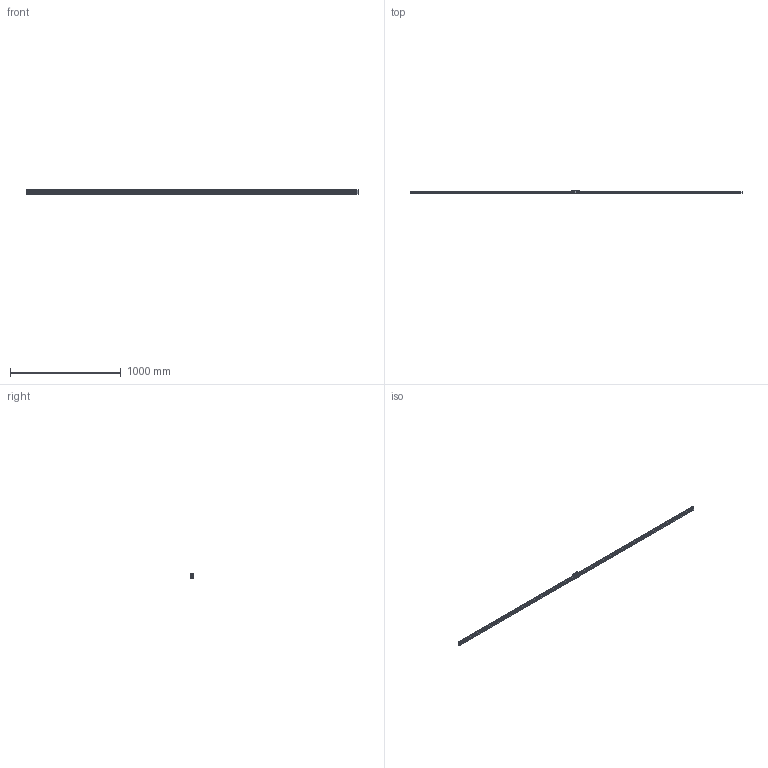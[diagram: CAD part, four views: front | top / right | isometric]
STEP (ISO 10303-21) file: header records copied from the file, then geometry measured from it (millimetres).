
FILE_DESCRIPTION(/* description */ ('STEP AP214'),/* implementation_level */ '2;1');
FILE_NAME(/* name */ 'HRW21CR1UU-3000LT_G25_0_B-M6F_1470-6_0_0_0_1',/* time_stamp */ '2023-09-26T15:13:05+02:00',/* author */ ('License CC BY-ND 4.0'),/* organization */ ('CADENAS'),/* preprocessor_version */ 'ST-DEVELOPER v19.3',/* originating_system */ 'PARTsolutions',/* authorisation */ ' ');
FILE_SCHEMA (('AUTOMOTIVE_DESIGN {1 0 10303 214 3 1 1}'));
Length unit declared in the file: millimetre
Products named in the file (4): HRW21CR1UU-3000LT_G25_0_B-M6F_1470-6_0_0_0_1; HRW-B-M6F_grease_nipple_joint; HRW21CRUUB-M6F1 Slide17-60; HRW21CR300025 Track
Assembly tree (3 placements, depth 2):
  HRW21CR1UU-3000LT_G25_0_B-M6F_1470-6_0_0_0_1
    HRW-B-M6F_grease_nipple_joint
    HRW21CRUUB-M6F1 Slide17-60
    HRW21CR300025 Track
Bounding box: 3000 x 21.12 x 54 mm (x, y, z)
Volume: 1120434.6 mm3; surface area: 331738.5 mm2
Topology: 3 solids, 3 shells, 662 faces, 1506 edges, 993 vertices
Faces by surface type: plane 354, cylinder 270, cone 29, torus 6, sphere 3
Full cylindrical faces by diameter (mm): 3 x4, 4.134 x4, 4.5 x120, 4.917 x2, 5 x8, 6 x1, 7.5 x120, 8 x1
Entity records: 17775 total; most frequent: DIRECTION 3086, CARTESIAN_POINT 2951, ORIENTED_EDGE 2400, FACE_BOUND 1343, EDGE_LOOP 1337, AXIS2_PLACEMENT_3D 1244, EDGE_CURVE 1200, VERTEX_POINT 985
